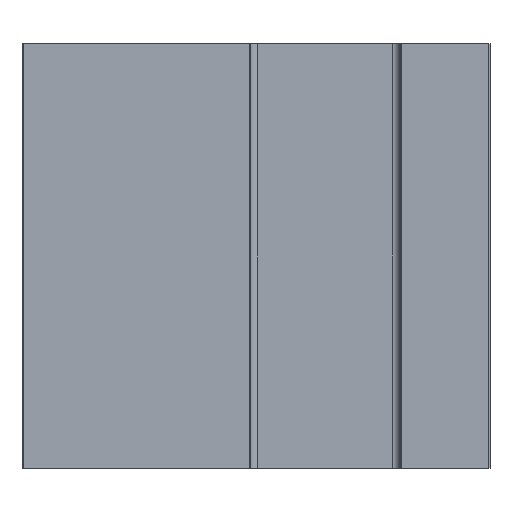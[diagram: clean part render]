
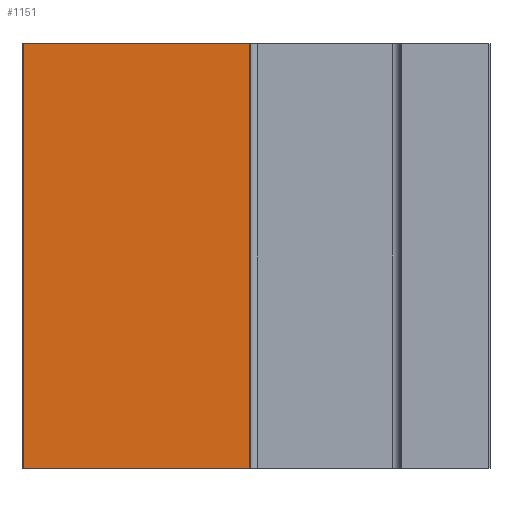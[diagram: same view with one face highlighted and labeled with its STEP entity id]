
A CAD part, front view. The second image highlights one B-rep face of the part: STEP entity #1151.
In plain terms, the highlighted planar face has unit normal (0, -1, 0).
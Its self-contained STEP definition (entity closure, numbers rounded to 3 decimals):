
#591 = EDGE_CURVE( '', #953, #1287, #1695, .T. );
#685 = VERTEX_POINT( '', #1803 );
#845 = EDGE_CURVE( '', #921, #685, #1977, .T. );
#921 = VERTEX_POINT( '', #2059 );
#953 = VERTEX_POINT( '', #2096 );
#1023 = EDGE_CURVE( '', #921, #953, #2178, .T. );
#1151 = ADVANCED_FACE( '', ( #2323 ), #2324, .T. );
#1183 = EDGE_CURVE( '', #685, #1287, #2359, .T. );
#1287 = VERTEX_POINT( '', #2485 );
#1695 = LINE( '', #2933, #2934 );
#1803 = CARTESIAN_POINT( '', ( -6.1, -3., 0. ) );
#1977 = LINE( '', #3313, #3314 );
#2059 = CARTESIAN_POINT( '', ( -24.2, -3., 0. ) );
#2096 = CARTESIAN_POINT( '', ( -24.2, -3., -34. ) );
#2178 = LINE( '', #3590, #3591 );
#2323 = FACE_OUTER_BOUND( '', #3783, .T. );
#2324 = PLANE( '', #3784 );
#2359 = LINE( '', #3837, #3838 );
#2485 = CARTESIAN_POINT( '', ( -6.1, -3., -34. ) );
#2933 = CARTESIAN_POINT( '', ( -24.2, -3., -34. ) );
#2934 = VECTOR( '', #4578, 1. );
#3313 = CARTESIAN_POINT( '', ( -24.2, -3., 0. ) );
#3314 = VECTOR( '', #4871, 1. );
#3590 = CARTESIAN_POINT( '', ( -24.2, -3., 0. ) );
#3591 = VECTOR( '', #5099, 1. );
#3783 = EDGE_LOOP( '', ( #5278, #5279, #5280, #5281 ) );
#3784 = AXIS2_PLACEMENT_3D( '', #5282, #5283, #5284 );
#3837 = CARTESIAN_POINT( '', ( -6.1, -3., 0. ) );
#3838 = VECTOR( '', #5325, 1. );
#4578 = DIRECTION( '', ( 1., 0., 0. ) );
#4871 = DIRECTION( '', ( 1., 0., 0. ) );
#5099 = DIRECTION( '', ( 0., 0., -1. ) );
#5278 = ORIENTED_EDGE( '', *, *, #591, .T. );
#5279 = ORIENTED_EDGE( '', *, *, #1183, .F. );
#5280 = ORIENTED_EDGE( '', *, *, #845, .F. );
#5281 = ORIENTED_EDGE( '', *, *, #1023, .T. );
#5282 = CARTESIAN_POINT( '', ( -24.2, -3., 0. ) );
#5283 = DIRECTION( '', ( 0., -1., 0. ) );
#5284 = DIRECTION( '', ( -1., 0., 0. ) );
#5325 = DIRECTION( '', ( 0., 0., -1. ) );
